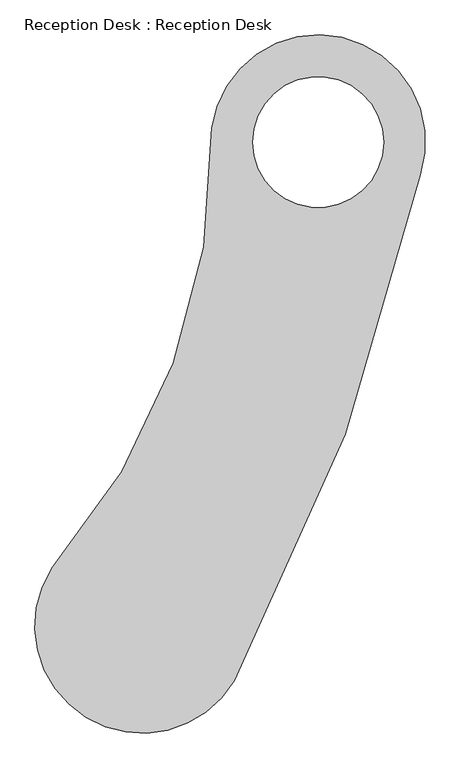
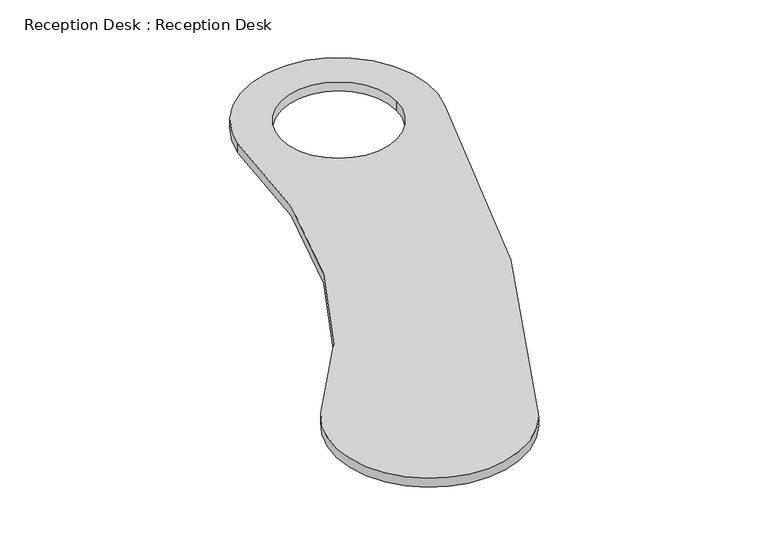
"""IFC4 building model written with IfcOpenShell, lengths in millimetres: furniture geometry, Reception Desk : Reception Desk."""

from ifc_helpers import new_model, si_unit, point, frame, frame_2d, origin, place, context, project, spatial, circle_curve, trimmed, segment, composite_curve, outline, extrude, source, transform, mapped, element, save


def reception_desk_reception_desk_e332c73f(model_context):
    return source(origin(), model_context, "Body", "SweptSolid", [
        extrude(outline(composite_curve([segment(trimmed(circle_curve(frame_2d((-13491.7729561, 1144.0678413)), 3000.0), [point((-11240.1193807, -838.3690873))], [point((-10492.6203521, 1215.3676148))], True, "CARTESIAN"), True, "CONTINUOUS"), segment(trimmed(circle_curve(frame_2d((-9997.0313072, 1149.0992317)), 500.0), [point((-10492.6203521, 1215.3676148))], [point((-9520.4278259, 997.9399726))], False, "CARTESIAN"), True, "CONTINUOUS"), segment(trimmed(circle_curve(frame_2d((-18318.4757611, 2893.8177457)), 9000.0), [point((-9520.4278259, 997.9399726))], [point((-10388.1837459, -1361.8218719))], False, "CARTESIAN"), True, "CONTINUOUS"), segment(trimmed(circle_curve(frame_2d((-10817.8796512, -1106.1630582)), 500.0), [point((-10388.1837459, -1361.8218719))], [point((-11240.1193807, -838.3690873))], False, "CARTESIAN"), True, "CONTINUOUS")], self_intersect=False), holes=[composite_curve([segment(trimmed(circle_curve(frame_2d((-9997.0313072, 1149.0992317)), 305.0), [point((-10302.0313072, 1149.0992317))], [point((-9692.0313072, 1149.0992317))], True, "CARTESIAN"), True, "CONTINUOUS"), segment(trimmed(circle_curve(frame_2d((-9997.0313072, 1149.0992317)), 305.0), [point((-9692.0313072, 1149.0992317))], [point((-10302.0313072, 1149.0992317))], True, "CARTESIAN"), True, "CONTINUOUS")], self_intersect=False)]), frame((0.0, 0.0, 46570.0), z_axis=(0.0, 0.0, 1.0), x_axis=(1.0, 0.0, 0.0)), (0.0, 0.0, 1.0), 50.0),
    ])


if __name__ == "__main__":
    model = new_model("IFC4")
    model_context = context("Model", 3, world=origin())
    ifc_project = project(units=[si_unit("LENGTHUNIT", "METRE", prefix="MILLI")], contexts=[model_context])
    site = spatial("IfcSite", under=ifc_project)
    building = spatial("IfcBuilding", under=site)
    placement = place(None, origin())
    reception_desk_reception_desk_shape = reception_desk_reception_desk_e332c73f(model_context)
    element("IfcFurniture", 1, ObjectType="Reception Desk : Reception Desk", at=placement, inside=building, context=model_context, shape_type="MappedRepresentation", body=[
        mapped(reception_desk_reception_desk_shape, transform((0.0, 0.0, 0.0), x_axis=(1.0, 0.0, 0.0), y_axis=(0.0, 1.0, 0.0), z_axis=(0.0, 0.0, 1.0))),
    ])
    save(model, "model.ifc")
